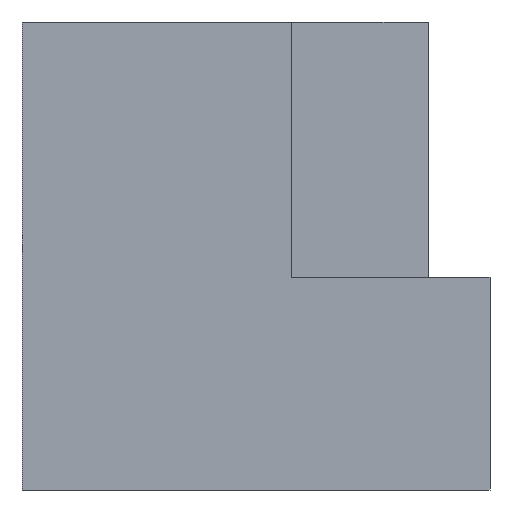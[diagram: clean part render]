
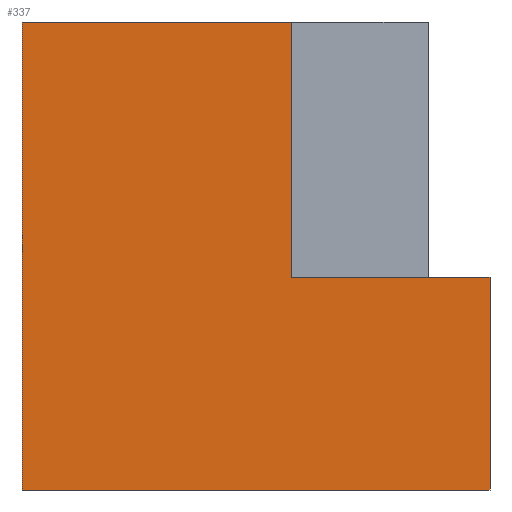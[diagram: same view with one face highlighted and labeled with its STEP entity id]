
A CAD part, left-side view. The second image highlights one B-rep face of the part: STEP entity #337.
In plain terms, the highlighted planar face has unit normal (-1, 0, 0).
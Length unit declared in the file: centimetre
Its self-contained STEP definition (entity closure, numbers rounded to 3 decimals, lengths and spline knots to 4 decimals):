
#3 = CARTESIAN_POINT ( 'NONE',  ( 0., 0., 0. ) ) ;
#7 = DIRECTION ( 'NONE',  ( 0., 0., -1. ) ) ;
#8 = FACE_OUTER_BOUND ( 'NONE', #222, .T. ) ;
#15 = ORIENTED_EDGE ( 'NONE', *, *, #47, .T. ) ;
#23 = EDGE_CURVE ( 'NONE', #178, #369, #134, .T. ) ;
#25 = EDGE_CURVE ( 'NONE', #336, #178, #196, .T. ) ;
#29 = VECTOR ( 'NONE', #191, 100. ) ;
#31 = DIRECTION ( 'NONE',  ( 0., 0., -1. ) ) ;
#33 = DIRECTION ( 'NONE',  ( 0., -1., 0. ) ) ;
#34 = VERTEX_POINT ( 'NONE', #257 ) ;
#36 = VECTOR ( 'NONE', #251, 100. ) ;
#38 = PLANE ( 'NONE',  #221 ) ;
#47 = EDGE_CURVE ( 'NONE', #336, #34, #340, .T. ) ;
#50 = ORIENTED_EDGE ( 'NONE', *, *, #23, .F. ) ;
#60 = CARTESIAN_POINT ( 'NONE',  ( 0., 423.5051, 455.0468 ) ) ;
#69 = VECTOR ( 'NONE', #33, 100. ) ;
#81 = EDGE_CURVE ( 'NONE', #103, #105, #89, .T. ) ;
#89 = LINE ( 'NONE', #135, #131 ) ;
#101 = ORIENTED_EDGE ( 'NONE', *, *, #116, .F. ) ;
#103 = VERTEX_POINT ( 'NONE', #279 ) ;
#105 = VERTEX_POINT ( 'NONE', #223 ) ;
#109 = LINE ( 'NONE', #315, #289 ) ;
#115 = CARTESIAN_POINT ( 'NONE',  ( 0., 423.5051, 455.0468 ) ) ;
#116 = EDGE_CURVE ( 'NONE', #103, #34, #109, .T. ) ;
#120 = LINE ( 'NONE', #287, #69 ) ;
#131 = VECTOR ( 'NONE', #7, 100. ) ;
#134 = LINE ( 'NONE', #281, #29 ) ;
#135 = CARTESIAN_POINT ( 'NONE',  ( 0., 1000., 1000. ) ) ;
#137 = DIRECTION ( 'NONE',  ( 0., -1., 0. ) ) ;
#165 = DIRECTION ( 'NONE',  ( 0., -1., 0. ) ) ;
#178 = VERTEX_POINT ( 'NONE', #270 ) ;
#181 = ORIENTED_EDGE ( 'NONE', *, *, #352, .T. ) ;
#191 = DIRECTION ( 'NONE',  ( 0., 0., -1. ) ) ;
#196 = LINE ( 'NONE', #317, #236 ) ;
#217 = ORIENTED_EDGE ( 'NONE', *, *, #25, .F. ) ;
#221 = AXIS2_PLACEMENT_3D ( 'NONE', #282, #313, #31 ) ;
#222 = EDGE_LOOP ( 'NONE', ( #217, #15, #101, #334, #181, #50 ) ) ;
#223 = CARTESIAN_POINT ( 'NONE',  ( 0., 1000., 0. ) ) ;
#236 = VECTOR ( 'NONE', #165, 100. ) ;
#251 = DIRECTION ( 'NONE',  ( 0., 0., 1. ) ) ;
#257 = CARTESIAN_POINT ( 'NONE',  ( 0., 423.5051, 1000. ) ) ;
#270 = CARTESIAN_POINT ( 'NONE',  ( 0., 0., 455.0468 ) ) ;
#279 = CARTESIAN_POINT ( 'NONE',  ( 0., 1000., 1000. ) ) ;
#281 = CARTESIAN_POINT ( 'NONE',  ( 0., 0., 1000. ) ) ;
#282 = CARTESIAN_POINT ( 'NONE',  ( 0., 1000., 1000. ) ) ;
#287 = CARTESIAN_POINT ( 'NONE',  ( 0., 1000., 0. ) ) ;
#289 = VECTOR ( 'NONE', #137, 100. ) ;
#313 = DIRECTION ( 'NONE',  ( 1., 0., 0. ) ) ;
#315 = CARTESIAN_POINT ( 'NONE',  ( 0., 1000., 1000. ) ) ;
#317 = CARTESIAN_POINT ( 'NONE',  ( 0., 0., 455.0468 ) ) ;
#334 = ORIENTED_EDGE ( 'NONE', *, *, #81, .T. ) ;
#336 = VERTEX_POINT ( 'NONE', #115 ) ;
#337 = ADVANCED_FACE ( 'NONE', ( #8 ), #38, .F. ) ;
#340 = LINE ( 'NONE', #60, #36 ) ;
#352 = EDGE_CURVE ( 'NONE', #105, #369, #120, .T. ) ;
#369 = VERTEX_POINT ( 'NONE', #3 ) ;
